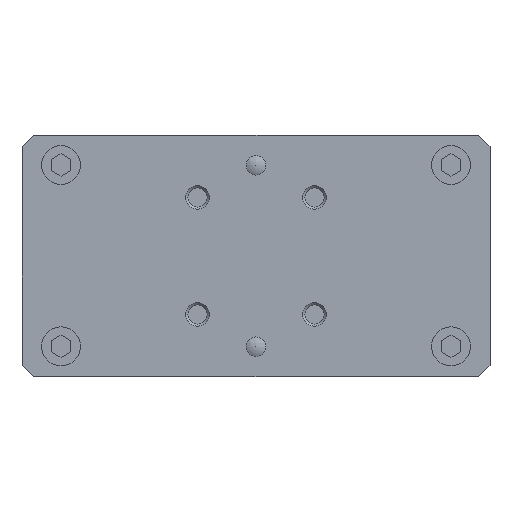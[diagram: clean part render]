
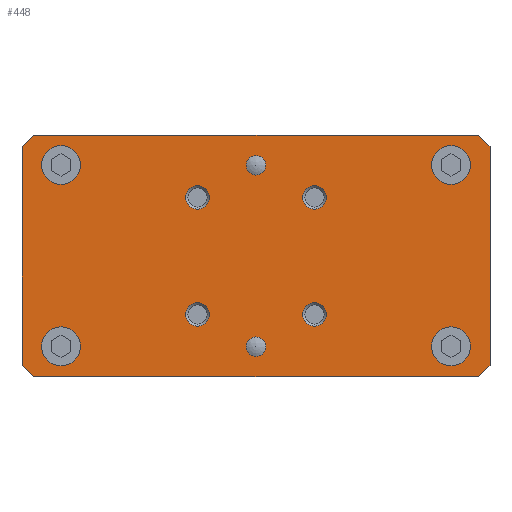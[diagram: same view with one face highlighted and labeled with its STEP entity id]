
A CAD part, top view. The second image highlights one B-rep face of the part: STEP entity #448.
In plain terms, the highlighted planar face has unit normal (0, 0, 1).
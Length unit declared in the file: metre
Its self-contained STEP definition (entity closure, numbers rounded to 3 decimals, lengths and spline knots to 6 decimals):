
#448 = ADVANCED_FACE( '', ( #973, #974, #975, #976, #977, #978, #979, #980, #981, #982, #983 ), #984, .F. );
#973 = FACE_BOUND( '', #1666, .T. );
#974 = FACE_BOUND( '', #1667, .T. );
#975 = FACE_BOUND( '', #1668, .T. );
#976 = FACE_BOUND( '', #1669, .T. );
#977 = FACE_BOUND( '', #1670, .T. );
#978 = FACE_BOUND( '', #1671, .T. );
#979 = FACE_BOUND( '', #1672, .T. );
#980 = FACE_BOUND( '', #1673, .T. );
#981 = FACE_BOUND( '', #1674, .T. );
#982 = FACE_BOUND( '', #1675, .T. );
#983 = FACE_OUTER_BOUND( '', #1676, .T. );
#984 = PLANE( '', #1677 );
#1666 = EDGE_LOOP( '', ( #2702 ) );
#1667 = EDGE_LOOP( '', ( #2703 ) );
#1668 = EDGE_LOOP( '', ( #2704 ) );
#1669 = EDGE_LOOP( '', ( #2705 ) );
#1670 = EDGE_LOOP( '', ( #2706 ) );
#1671 = EDGE_LOOP( '', ( #2707 ) );
#1672 = EDGE_LOOP( '', ( #2708 ) );
#1673 = EDGE_LOOP( '', ( #2709 ) );
#1674 = EDGE_LOOP( '', ( #2710 ) );
#1675 = EDGE_LOOP( '', ( #2711 ) );
#1676 = EDGE_LOOP( '', ( #2712, #2713, #2714, #2715, #2716, #2717, #2718, #2719 ) );
#1677 = AXIS2_PLACEMENT_3D( '', #2720, #2721, #2722 );
#2702 = ORIENTED_EDGE( '', *, *, #3201, .T. );
#2703 = ORIENTED_EDGE( '', *, *, #2914, .F. );
#2704 = ORIENTED_EDGE( '', *, *, #3086, .F. );
#2705 = ORIENTED_EDGE( '', *, *, #2864, .T. );
#2706 = ORIENTED_EDGE( '', *, *, #3198, .F. );
#2707 = ORIENTED_EDGE( '', *, *, #2938, .T. );
#2708 = ORIENTED_EDGE( '', *, *, #3049, .F. );
#2709 = ORIENTED_EDGE( '', *, *, #3139, .F. );
#2710 = ORIENTED_EDGE( '', *, *, #3219, .F. );
#2711 = ORIENTED_EDGE( '', *, *, #3155, .F. );
#2712 = ORIENTED_EDGE( '', *, *, #3162, .F. );
#2713 = ORIENTED_EDGE( '', *, *, #3123, .T. );
#2714 = ORIENTED_EDGE( '', *, *, #3212, .F. );
#2715 = ORIENTED_EDGE( '', *, *, #3220, .T. );
#2716 = ORIENTED_EDGE( '', *, *, #2888, .F. );
#2717 = ORIENTED_EDGE( '', *, *, #3022, .T. );
#2718 = ORIENTED_EDGE( '', *, *, #3082, .F. );
#2719 = ORIENTED_EDGE( '', *, *, #3110, .T. );
#2720 = CARTESIAN_POINT( '', ( -0.06, 0.031, 0.011 ) );
#2721 = DIRECTION( '', ( 0., 0., -1. ) );
#2722 = DIRECTION( '', ( 0., 1., 0. ) );
#2864 = EDGE_CURVE( '', #3294, #3294, #3295, .T. );
#2888 = EDGE_CURVE( '', #3333, #3334, #3335, .T. );
#2914 = EDGE_CURVE( '', #3375, #3375, #3376, .T. );
#2938 = EDGE_CURVE( '', #3413, #3413, #3414, .T. );
#3022 = EDGE_CURVE( '', #3333, #3540, #3541, .F. );
#3049 = EDGE_CURVE( '', #3585, #3585, #3586, .T. );
#3082 = EDGE_CURVE( '', #3631, #3540, #3632, .T. );
#3086 = EDGE_CURVE( '', #3637, #3637, #3638, .T. );
#3110 = EDGE_CURVE( '', #3631, #3675, #3676, .F. );
#3123 = EDGE_CURVE( '', #3691, #3692, #3693, .F. );
#3139 = EDGE_CURVE( '', #3715, #3715, #3716, .T. );
#3155 = EDGE_CURVE( '', #3738, #3738, #3739, .T. );
#3162 = EDGE_CURVE( '', #3691, #3675, #3747, .T. );
#3198 = EDGE_CURVE( '', #3789, #3789, #3790, .T. );
#3201 = EDGE_CURVE( '', #3793, #3793, #3794, .T. );
#3212 = EDGE_CURVE( '', #3807, #3692, #3808, .T. );
#3219 = EDGE_CURVE( '', #3815, #3815, #3816, .T. );
#3220 = EDGE_CURVE( '', #3807, #3334, #3817, .F. );
#3294 = VERTEX_POINT( '', #3911 );
#3295 = CIRCLE( '', #3912, 0.003 );
#3333 = VERTEX_POINT( '', #3965 );
#3334 = VERTEX_POINT( '', #3966 );
#3335 = LINE( '', #3967, #3968 );
#3375 = VERTEX_POINT( '', #4018 );
#3376 = CIRCLE( '', #4019, 0.003 );
#3413 = VERTEX_POINT( '', #4129 );
#3414 = CIRCLE( '', #4130, 0.0025 );
#3540 = VERTEX_POINT( '', #4395 );
#3541 = LINE( '', #4396, #4397 );
#3585 = VERTEX_POINT( '', #4480 );
#3586 = CIRCLE( '', #4481, 0.003 );
#3631 = VERTEX_POINT( '', #4537 );
#3632 = LINE( '', #4538, #4539 );
#3637 = VERTEX_POINT( '', #4546 );
#3638 = CIRCLE( '', #4547, 0.003 );
#3675 = VERTEX_POINT( '', #4654 );
#3676 = LINE( '', #4655, #4656 );
#3691 = VERTEX_POINT( '', #4677 );
#3692 = VERTEX_POINT( '', #4678 );
#3693 = LINE( '', #4679, #4680 );
#3715 = VERTEX_POINT( '', #4708 );
#3716 = CIRCLE( '', #4709, 0.003 );
#3738 = VERTEX_POINT( '', #4740 );
#3739 = CIRCLE( '', #4741, 0.003 );
#3747 = LINE( '', #4751, #4752 );
#3789 = VERTEX_POINT( '', #4810 );
#3790 = CIRCLE( '', #4811, 0.0025 );
#3793 = VERTEX_POINT( '', #4814 );
#3794 = CIRCLE( '', #4815, 0.003 );
#3807 = VERTEX_POINT( '', #4831 );
#3808 = LINE( '', #4832, #4833 );
#3815 = VERTEX_POINT( '', #4842 );
#3816 = CIRCLE( '', #4843, 0.003 );
#3817 = LINE( '', #4844, #4845 );
#3911 = CARTESIAN_POINT( '', ( 0.012, 0.015, 0.011 ) );
#3912 = AXIS2_PLACEMENT_3D( '', #4901, #4902, #4903 );
#3965 = CARTESIAN_POINT( '', ( 0.06, 0.028, 0.011 ) );
#3966 = CARTESIAN_POINT( '', ( 0.06, -0.028, 0.011 ) );
#3967 = CARTESIAN_POINT( '', ( 0.06, 0.031, 0.011 ) );
#3968 = VECTOR( '', #4925, 1. );
#4018 = CARTESIAN_POINT( '', ( 0.012, -0.015, 0.011 ) );
#4019 = AXIS2_PLACEMENT_3D( '', #4957, #4958, #4959 );
#4129 = CARTESIAN_POINT( '', ( -0.0025, 0.02325, 0.011 ) );
#4130 = AXIS2_PLACEMENT_3D( '', #4985, #4986, #4987 );
#4395 = CARTESIAN_POINT( '', ( 0.057, 0.031, 0.011 ) );
#4396 = CARTESIAN_POINT( '', ( 0.057, 0.031, 0.011 ) );
#4397 = VECTOR( '', #5064, 1. );
#4480 = CARTESIAN_POINT( '', ( -0.047, -0.02325, 0.011 ) );
#4481 = AXIS2_PLACEMENT_3D( '', #5104, #5105, #5106 );
#4537 = CARTESIAN_POINT( '', ( -0.057, 0.031, 0.011 ) );
#4538 = CARTESIAN_POINT( '', ( -0.06, 0.031, 0.011 ) );
#4539 = VECTOR( '', #5139, 1. );
#4546 = CARTESIAN_POINT( '', ( -0.012, 0.015, 0.011 ) );
#4547 = AXIS2_PLACEMENT_3D( '', #5142, #5143, #5144 );
#4654 = CARTESIAN_POINT( '', ( -0.06, 0.028, 0.011 ) );
#4655 = CARTESIAN_POINT( '', ( -0.06, 0.028, 0.011 ) );
#4656 = VECTOR( '', #5170, 1. );
#4677 = CARTESIAN_POINT( '', ( -0.06, -0.028, 0.011 ) );
#4678 = CARTESIAN_POINT( '', ( -0.057, -0.031, 0.011 ) );
#4679 = CARTESIAN_POINT( '', ( -0.057, -0.031, 0.011 ) );
#4680 = VECTOR( '', #5180, 1. );
#4708 = CARTESIAN_POINT( '', ( 0.047, -0.02325, 0.011 ) );
#4709 = AXIS2_PLACEMENT_3D( '', #5196, #5197, #5198 );
#4740 = CARTESIAN_POINT( '', ( 0.053, 0.02325, 0.011 ) );
#4741 = AXIS2_PLACEMENT_3D( '', #5208, #5209, #5210 );
#4751 = CARTESIAN_POINT( '', ( -0.06, -0.031, 0.011 ) );
#4752 = VECTOR( '', #5216, 1. );
#4810 = CARTESIAN_POINT( '', ( -0.0025, -0.02325, 0.011 ) );
#4811 = AXIS2_PLACEMENT_3D( '', #5236, #5237, #5238 );
#4814 = CARTESIAN_POINT( '', ( -0.012, -0.015, 0.011 ) );
#4815 = AXIS2_PLACEMENT_3D( '', #5239, #5240, #5241 );
#4831 = CARTESIAN_POINT( '', ( 0.057, -0.031, 0.011 ) );
#4832 = CARTESIAN_POINT( '', ( 0.06, -0.031, 0.011 ) );
#4833 = VECTOR( '', #5248, 1. );
#4842 = CARTESIAN_POINT( '', ( -0.047, 0.02325, 0.011 ) );
#4843 = AXIS2_PLACEMENT_3D( '', #5251, #5252, #5253 );
#4844 = CARTESIAN_POINT( '', ( 0.06, -0.028, 0.011 ) );
#4845 = VECTOR( '', #5254, 1. );
#4901 = CARTESIAN_POINT( '', ( 0.015, 0.015, 0.011 ) );
#4902 = DIRECTION( '', ( 0., 0., -1. ) );
#4903 = DIRECTION( '', ( -1., 0., 0. ) );
#4925 = DIRECTION( '', ( 0., -1., 0. ) );
#4957 = CARTESIAN_POINT( '', ( 0.015, -0.015, 0.011 ) );
#4958 = DIRECTION( '', ( 0., 0., 1. ) );
#4959 = DIRECTION( '', ( -1., 0., 0. ) );
#4985 = CARTESIAN_POINT( '', ( 0., 0.02325, 0.011 ) );
#4986 = DIRECTION( '', ( 0., 0., -1. ) );
#4987 = DIRECTION( '', ( -1., 0., 0. ) );
#5064 = DIRECTION( '', ( 0.707, -0.707, 0. ) );
#5104 = CARTESIAN_POINT( '', ( -0.05, -0.02325, 0.011 ) );
#5105 = DIRECTION( '', ( 0., 0., 1. ) );
#5106 = DIRECTION( '', ( 1., 0., 0. ) );
#5139 = DIRECTION( '', ( 1., 0., 0. ) );
#5142 = CARTESIAN_POINT( '', ( -0.015, 0.015, 0.011 ) );
#5143 = DIRECTION( '', ( 0., 0., 1. ) );
#5144 = DIRECTION( '', ( 1., 0., 0. ) );
#5170 = DIRECTION( '', ( 0.707, 0.707, 0. ) );
#5180 = DIRECTION( '', ( -0.707, 0.707, 0. ) );
#5196 = CARTESIAN_POINT( '', ( 0.05, -0.02325, 0.011 ) );
#5197 = DIRECTION( '', ( 0., 0., 1. ) );
#5198 = DIRECTION( '', ( -1., 0., 0. ) );
#5208 = CARTESIAN_POINT( '', ( 0.05, 0.02325, 0.011 ) );
#5209 = DIRECTION( '', ( 0., 0., 1. ) );
#5210 = DIRECTION( '', ( 1., 0., 0. ) );
#5216 = DIRECTION( '', ( 0., 1., 0. ) );
#5236 = CARTESIAN_POINT( '', ( 0., -0.02325, 0.011 ) );
#5237 = DIRECTION( '', ( 0., 0., 1. ) );
#5238 = DIRECTION( '', ( -1., 0., 0. ) );
#5239 = CARTESIAN_POINT( '', ( -0.015, -0.015, 0.011 ) );
#5240 = DIRECTION( '', ( 0., 0., -1. ) );
#5241 = DIRECTION( '', ( 1., 0., 0. ) );
#5248 = DIRECTION( '', ( -1., 0., 0. ) );
#5251 = CARTESIAN_POINT( '', ( -0.05, 0.02325, 0.011 ) );
#5252 = DIRECTION( '', ( 0., 0., 1. ) );
#5253 = DIRECTION( '', ( 1., 0., 0. ) );
#5254 = DIRECTION( '', ( -0.707, -0.707, 0. ) );
